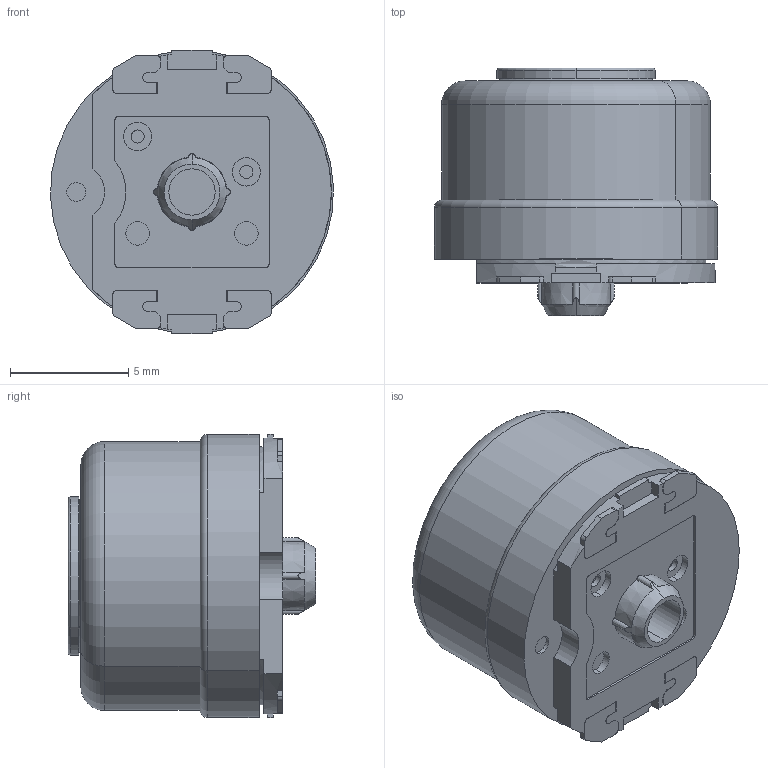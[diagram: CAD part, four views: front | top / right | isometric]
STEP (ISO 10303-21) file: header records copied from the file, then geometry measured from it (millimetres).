
FILE_DESCRIPTION(('Creo Elements/Direct Modeling STEP Export'),'2;1');
FILE_NAME('229SC.stp','2013-04-07T23:04:21',(''),(''),'Creo Elements/Direct Modeling STEP processor for AP214 (Solid Model)','Creo Elements/Direct Modeling 18.1C 24-Feb-2013 (C) Parametric Technology GmbH','');
FILE_SCHEMA(('AUTOMOTIVE_DESIGN { 1 0 10303 214 1 1 1 1 }'));
Length unit declared in the file: millimetre
Products named in the file (1): 13M229-01-101_HOUSING_CENTRAL_P.PRT
Bounding box: 11.98 x 10.49 x 12 mm (x, y, z)
Volume: 893.1 mm3; surface area: 920.8 mm2
Topology: 1 solids, 16 shells, 289 faces, 702 edges, 458 vertices
Faces by surface type: plane 146, cylinder 87, torus 30, cone 26
Entity records: 8234 total; most frequent: CARTESIAN_POINT 1575, ORIENTED_EDGE 1412, DIRECTION 1331, EDGE_CURVE 702, AXIS2_PLACEMENT_3D 482, VERTEX_POINT 458, VECTOR 367, LINE 367
